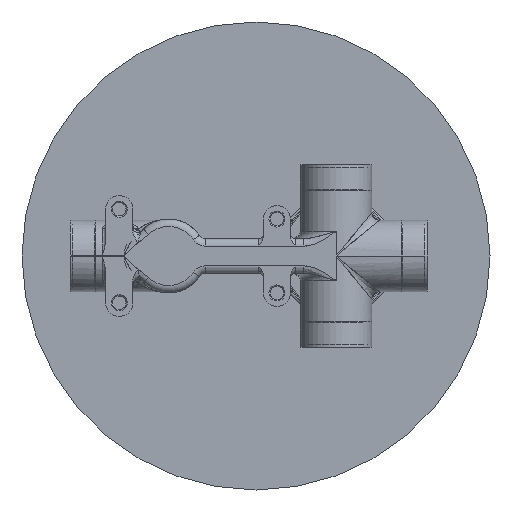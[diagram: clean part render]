
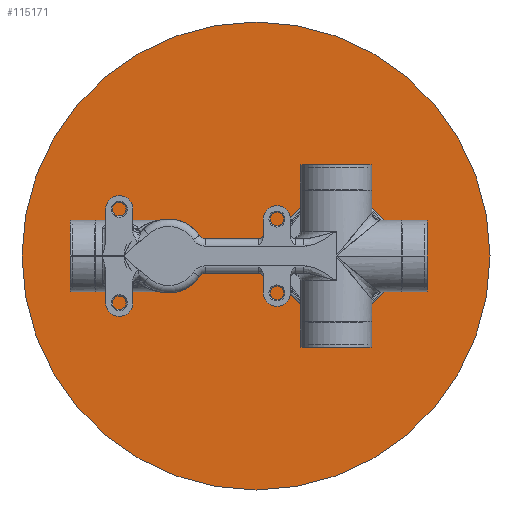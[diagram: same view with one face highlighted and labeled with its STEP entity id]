
A CAD part, left-side view. The second image highlights one B-rep face of the part: STEP entity #115171.
In plain terms, the highlighted planar face has unit normal (-1, 0, 0) as drawn and (0, -1, 0) by its records, which use the part's own axes.
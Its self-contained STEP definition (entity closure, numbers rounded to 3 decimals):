
#114724=CARTESIAN_POINT('',(0.,0.,0.));
#114725=DIRECTION('',(0.,1.,0.));
#114726=DIRECTION('',(1.,0.,0.));
#114727=AXIS2_PLACEMENT_3D('',#114724,#114725,#114726);
#114729=CARTESIAN_POINT('',(0.,0.,0.));
#114730=DIRECTION('',(0.,1.,0.));
#114731=DIRECTION('',(-1.,0.,0.));
#114732=AXIS2_PLACEMENT_3D('',#114729,#114730,#114731);
#114744=CARTESIAN_POINT('',(32.5,0.,0.));
#114745=DIRECTION('',(0.,-1.,0.));
#114746=DIRECTION('',(1.,0.,0.));
#114747=AXIS2_PLACEMENT_3D('',#114744,#114745,#114746);
#114749=CARTESIAN_POINT('',(32.5,0.,0.));
#114750=DIRECTION('',(0.,-1.,0.));
#114751=DIRECTION('',(-1.,0.,0.));
#114752=AXIS2_PLACEMENT_3D('',#114749,#114750,#114751);
#114764=CARTESIAN_POINT('',(-35.5,0.,0.));
#114765=DIRECTION('',(0.,1.,0.));
#114766=DIRECTION('',(1.,0.,0.));
#114767=AXIS2_PLACEMENT_3D('',#114764,#114765,#114766);
#114769=CARTESIAN_POINT('',(-35.5,0.,0.));
#114770=DIRECTION('',(0.,1.,0.));
#114771=DIRECTION('',(-1.,0.,0.));
#114772=AXIS2_PLACEMENT_3D('',#114769,#114770,#114771);
#115092=CARTESIAN_POINT('',(56.85,0.,0.));
#115093=CARTESIAN_POINT('',(8.15,0.,0.));
#115094=VERTEX_POINT('',#115092);
#115095=VERTEX_POINT('',#115093);
#115108=CARTESIAN_POINT('',(-22.25,0.,0.));
#115109=CARTESIAN_POINT('',(-48.75,0.,0.));
#115110=VERTEX_POINT('',#115108);
#115111=VERTEX_POINT('',#115109);
#115128=CARTESIAN_POINT('',(95.,0.,0.));
#115129=CARTESIAN_POINT('',(-95.,0.,0.));
#115130=VERTEX_POINT('',#115128);
#115131=VERTEX_POINT('',#115129);
#115148=CARTESIAN_POINT('',(0.,0.,0.));
#115149=DIRECTION('',(0.,1.,0.));
#115150=DIRECTION('',(1.,0.,0.));
#115151=AXIS2_PLACEMENT_3D('',#115148,#115149,#115150);
#115152=PLANE('',#115151);
#115154=ORIENTED_EDGE('',*,*,#115153,.T.);
#115156=ORIENTED_EDGE('',*,*,#115155,.T.);
#115157=EDGE_LOOP('',(#115154,#115156));
#115158=FACE_OUTER_BOUND('',#115157,.F.);
#115160=ORIENTED_EDGE('',*,*,#115159,.T.);
#115162=ORIENTED_EDGE('',*,*,#115161,.T.);
#115163=EDGE_LOOP('',(#115160,#115162));
#115164=FACE_BOUND('',#115163,.F.);
#115166=ORIENTED_EDGE('',*,*,#115165,.F.);
#115168=ORIENTED_EDGE('',*,*,#115167,.F.);
#115169=EDGE_LOOP('',(#115166,#115168));
#115170=FACE_BOUND('',#115169,.F.);
#115171=ADVANCED_FACE('',(#115158,#115164,#115170),#115152,.F.);
#114728=CIRCLE('',#114727,95.);
#114733=CIRCLE('',#114732,95.);
#114748=CIRCLE('',#114747,24.35);
#114753=CIRCLE('',#114752,24.35);
#114768=CIRCLE('',#114767,13.25);
#114773=CIRCLE('',#114772,13.25);
#115153=EDGE_CURVE('',#115130,#115131,#114728,.T.);
#115155=EDGE_CURVE('',#115131,#115130,#114733,.T.);
#115159=EDGE_CURVE('',#115094,#115095,#114748,.T.);
#115161=EDGE_CURVE('',#115095,#115094,#114753,.T.);
#115165=EDGE_CURVE('',#115110,#115111,#114768,.T.);
#115167=EDGE_CURVE('',#115111,#115110,#114773,.T.);
